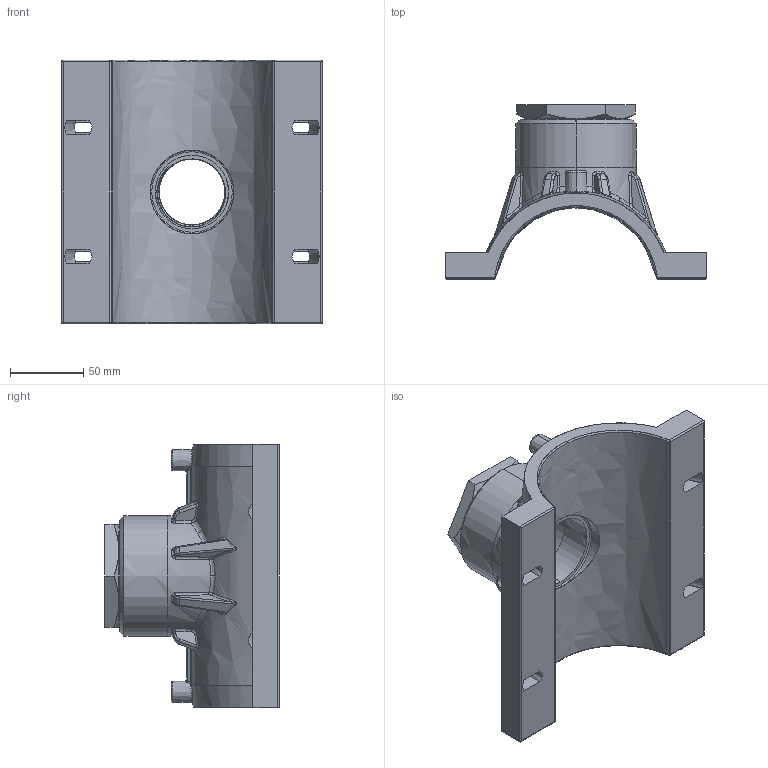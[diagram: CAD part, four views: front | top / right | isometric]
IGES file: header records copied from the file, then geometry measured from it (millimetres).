
Start section:  PTC IGES file: vam-rg_d110_1_1_2_01.igs
Global section: file name: vam-rg_d110_1_1_2_01.igs; native system: Pro/ENGINEER by Parametric Technology Corporation; preprocessor: 2011490; author: mtunjic; organization: Unknown; date: 20130909.105752; units: millimetre
Bounding box: 178 x 119.05 x 180 mm (x, y, z)
Surface area: 126255.3 mm2 (no closed solid volume)
Topology: 0 solids, 0 shells, 505 faces, 2492 edges, 2492 vertices
Faces by surface type: bspline 505
